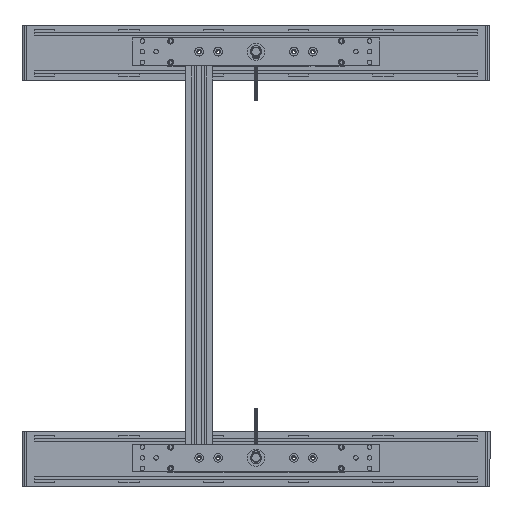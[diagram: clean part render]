
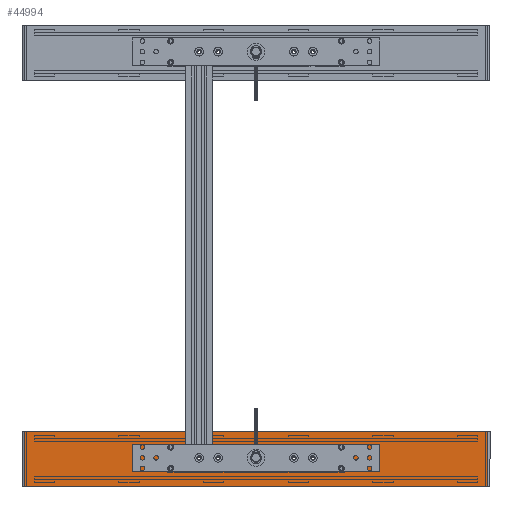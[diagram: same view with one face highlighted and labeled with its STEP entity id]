
A CAD part, top view. The second image highlights one B-rep face of the part: STEP entity #44994.
In plain terms, the highlighted planar face has unit normal (0, 0, 1).
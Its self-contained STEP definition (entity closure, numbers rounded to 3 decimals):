
#3043=CIRCLE('',#57467,4.25);
#3044=CIRCLE('',#57468,4.25);
#3045=CIRCLE('',#57469,4.25);
#3046=CIRCLE('',#57470,4.25);
#15515=ORIENTED_EDGE('',*,*,#22401,.F.);
#15516=ORIENTED_EDGE('',*,*,#22402,.F.);
#15517=ORIENTED_EDGE('',*,*,#22403,.F.);
#15518=ORIENTED_EDGE('',*,*,#22404,.F.);
#15519=ORIENTED_EDGE('',*,*,#22405,.F.);
#15520=ORIENTED_EDGE('',*,*,#22406,.T.);
#15521=ORIENTED_EDGE('',*,*,#22407,.T.);
#15522=ORIENTED_EDGE('',*,*,#22408,.T.);
#22401=EDGE_CURVE('',#26926,#26926,#3043,.T.);
#22402=EDGE_CURVE('',#26927,#26927,#3044,.T.);
#22403=EDGE_CURVE('',#26928,#26928,#3045,.T.);
#22404=EDGE_CURVE('',#26929,#26929,#3046,.T.);
#22405=EDGE_CURVE('',#26930,#26931,#31513,.T.);
#22406=EDGE_CURVE('',#26930,#26932,#31514,.T.);
#22407=EDGE_CURVE('',#26932,#26933,#31515,.T.);
#22408=EDGE_CURVE('',#26933,#26931,#31516,.F.);
#26926=VERTEX_POINT('',#83891);
#26927=VERTEX_POINT('',#83893);
#26928=VERTEX_POINT('',#83895);
#26929=VERTEX_POINT('',#83897);
#26930=VERTEX_POINT('',#83899);
#26931=VERTEX_POINT('',#83900);
#26932=VERTEX_POINT('',#83902);
#26933=VERTEX_POINT('',#83904);
#31513=LINE('',#83898,#35994);
#31514=LINE('',#83901,#35995);
#31515=LINE('',#83903,#35996);
#31516=LINE('',#83905,#35997);
#35994=VECTOR('',#69742,1000.);
#35995=VECTOR('',#69743,1000.);
#35996=VECTOR('',#69744,1000.);
#35997=VECTOR('',#69745,1000.);
#38495=EDGE_LOOP('',(#15515));
#38496=EDGE_LOOP('',(#15516));
#38497=EDGE_LOOP('',(#15517));
#38498=EDGE_LOOP('',(#15518));
#38499=EDGE_LOOP('',(#15519,#15520,#15521,#15522));
#41110=FACE_BOUND('',#38495,.T.);
#41111=FACE_BOUND('',#38496,.T.);
#41112=FACE_BOUND('',#38497,.T.);
#41113=FACE_BOUND('',#38498,.T.);
#41114=FACE_BOUND('',#38499,.T.);
#42761=PLANE('',#57466);
#44994=ADVANCED_FACE('',(#41110,#41111,#41112,#41113,#41114),#42761,.F.);
#57466=AXIS2_PLACEMENT_3D('',#83889,#69732,#69733);
#57467=AXIS2_PLACEMENT_3D('',#83890,#69734,#69735);
#57468=AXIS2_PLACEMENT_3D('',#83892,#69736,#69737);
#57469=AXIS2_PLACEMENT_3D('',#83894,#69738,#69739);
#57470=AXIS2_PLACEMENT_3D('',#83896,#69740,#69741);
#69732=DIRECTION('',(0.,0.,-1.));
#69733=DIRECTION('',(-1.,0.,0.));
#69734=DIRECTION('',(0.,0.,1.));
#69735=DIRECTION('',(-1.,0.,0.));
#69736=DIRECTION('',(0.,0.,1.));
#69737=DIRECTION('',(-1.,0.,0.));
#69738=DIRECTION('',(0.,0.,1.));
#69739=DIRECTION('',(-1.,0.,0.));
#69740=DIRECTION('',(0.,0.,1.));
#69741=DIRECTION('',(-1.,0.,0.));
#69742=DIRECTION('',(-1.,0.,0.));
#69743=DIRECTION('',(0.,1.,0.));
#69744=DIRECTION('',(-1.,0.,0.));
#69745=DIRECTION('',(0.,1.,0.));
#83889=CARTESIAN_POINT('',(340.,-40.,0.));
#83890=CARTESIAN_POINT('',(-82.5,0.,0.));
#83891=CARTESIAN_POINT('',(-86.75,0.,0.));
#83892=CARTESIAN_POINT('',(82.5,0.,0.));
#83893=CARTESIAN_POINT('',(78.25,0.,0.));
#83894=CARTESIAN_POINT('',(55.,0.,0.));
#83895=CARTESIAN_POINT('',(50.75,0.,0.));
#83896=CARTESIAN_POINT('',(-55.,0.,0.));
#83897=CARTESIAN_POINT('',(-59.25,0.,0.));
#83898=CARTESIAN_POINT('',(340.,-40.,0.));
#83899=CARTESIAN_POINT('',(336.,-40.,0.));
#83900=CARTESIAN_POINT('',(-336.,-40.,0.));
#83901=CARTESIAN_POINT('',(336.,-40.,0.));
#83902=CARTESIAN_POINT('',(336.,40.,0.));
#83903=CARTESIAN_POINT('',(340.,40.,0.));
#83904=CARTESIAN_POINT('',(-336.,40.,0.));
#83905=CARTESIAN_POINT('',(-336.,-40.,0.));
